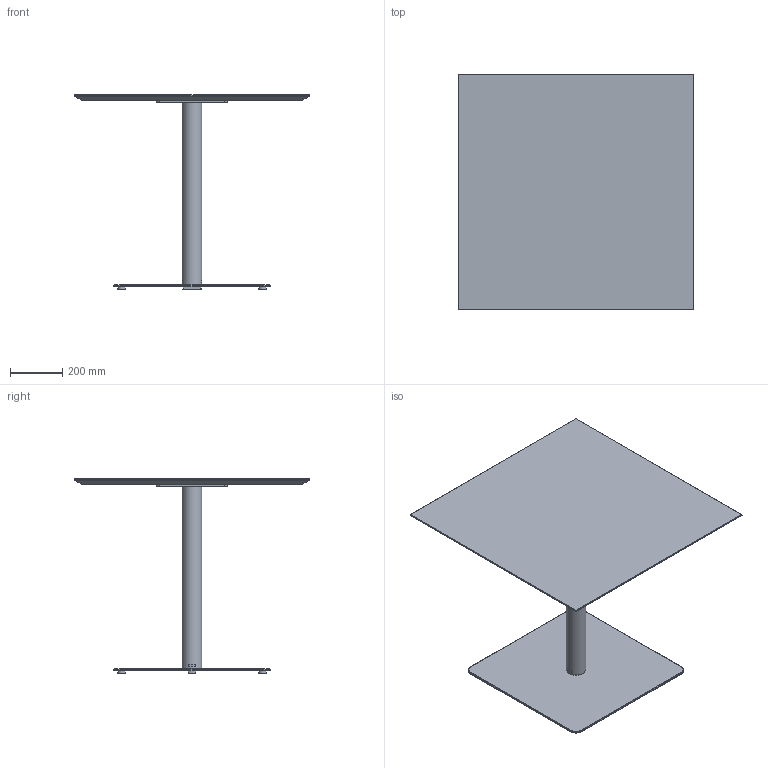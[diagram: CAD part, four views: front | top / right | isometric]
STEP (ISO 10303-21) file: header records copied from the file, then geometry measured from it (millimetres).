
FILE_DESCRIPTION( ('This file contains a STEP AP42 implementation' ,'as created by ZW3D STEP Interface translator.') ,'2;1' );
FILE_NAME( 'Henri - B_Carré - F4 - M5 - 900 x 900 x 750.stp' ,'24 912.1737 7', (''), ('ZWCAD Software Co.'), 'Version 1.0', 'ZW3D to STEP translator', '' );
FILE_SCHEMA(('AUTOMOTIVE_DESIGN { 1 0 10303 214 1 1 1 1 }'));
Length unit declared in the file: millimetre
Products named in the file (14): 0; PIED BISTROT PARAMETRIQUE_; COLONNE ACIER Ø76 V.02_; TUB-D076-02_; PLA-R76B-01_; CROIX ACIER 370 V.02_; CRX-X370-02_; SOCLE ACIER L 600x600 V.02_; SCL-R600-02_; PLA-R30A-01_; PLA-R30A-01; WUERTH 0276063020 Euro-screw 6.3x2 Verzinkt_; PLATEAU BISTROT PARAMETRIQUE_; insert_m6_13_
Assembly tree (22 placements, depth 3):
  0
  PIED BISTROT PARAMETRIQUE_
    COLONNE ACIER Ø76 V.02_
      TUB-D076-02_
      PLA-R76B-01_  x2
    CROIX ACIER 370 V.02_
      CRX-X370-02_
    SOCLE ACIER L 600x600 V.02_
      SCL-R600-02_
      PLA-R30A-01_
      PLA-R30A-01  x3
    WUERTH 0276063020 Euro-screw 6.3x2 Verzinkt_
    PLATEAU BISTROT PARAMETRIQUE_
      insert_m6_13_  x8
Bounding box: 900 x 900 x 744 mm (x, y, z)
Volume: 19319199.4 mm3; surface area: 2905284.9 mm2
Topology: 19 solids, 19 shells, 533 faces, 1306 edges, 818 vertices
Faces by surface type: plane 262, bspline 125, cylinder 98, cone 47, torus 1
Full cylindrical faces by diameter (mm): 4.88 x1, 6 x8, 6.3 x1, 8 x45, 12 x2, 14 x2, 30 x4, 72 x1, 76 x1
Entity records: 12210 total; most frequent: CARTESIAN_POINT 3408, ORIENTED_EDGE 1608, DIRECTION 1483, EDGE_CURVE 804, VERTEX_POINT 514, VECTOR 509, LINE 509, AXIS2_PLACEMENT_3D 487
